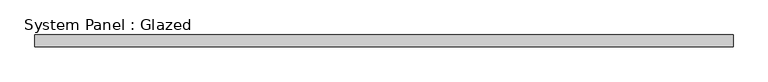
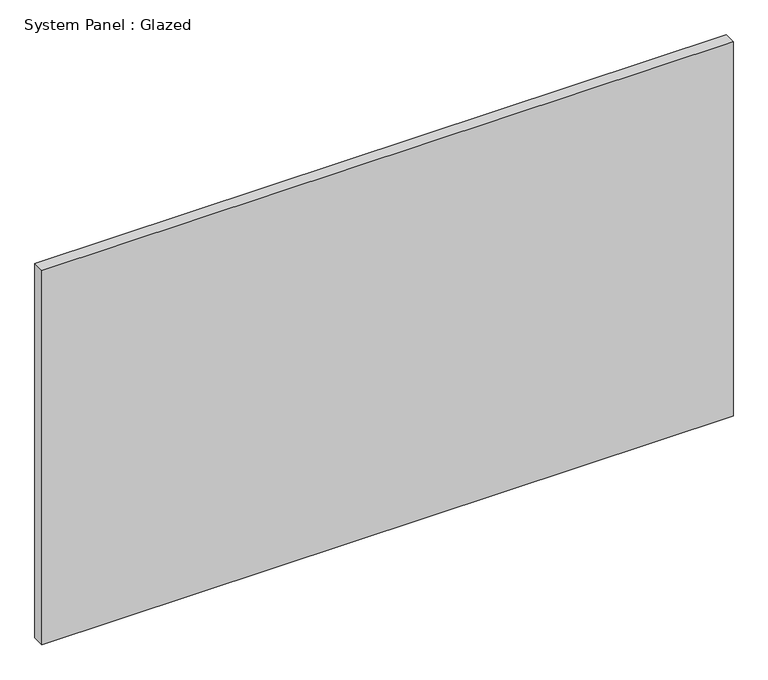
"""IFC4 building model written with IfcOpenShell, lengths in millimetres: plate geometry, System Panel : Glazed."""

from ifc_helpers import new_model, si_unit, origin, origin_with_axes, place, context, project, spatial, polyline, outline, extrude, source, transform, mapped, element, save


def system_panel_glazed_066b89af(model_context):
    return source(origin(), model_context, "Body", "SweptSolid", [
        extrude(outline(polyline([(742.95, 19.05), (-742.95, 19.05), (-742.95, 44.45), (742.95, 44.45), (742.95, 19.05)])), origin_with_axes(), (0.0, 0.0, 1.0), 850.9),
    ])


if __name__ == "__main__":
    model = new_model("IFC4")
    model_context = context("Model", 3, world=origin())
    ifc_project = project(units=[si_unit("LENGTHUNIT", "METRE", prefix="MILLI")], contexts=[model_context])
    site = spatial("IfcSite", under=ifc_project)
    building = spatial("IfcBuilding", under=site)
    placement = place(None, origin())
    system_panel_glazed_shape = system_panel_glazed_066b89af(model_context)
    element("IfcPlate", 1, ObjectType="System Panel : Glazed", at=placement, inside=building, context=model_context, shape_type="MappedRepresentation", body=[
        mapped(system_panel_glazed_shape, transform((0.0, 0.0, 0.0), x_axis=(1.0, 0.0, 0.0), y_axis=(0.0, 1.0, 0.0), z_axis=(0.0, 0.0, 1.0))),
    ])
    save(model, "model.ifc")
